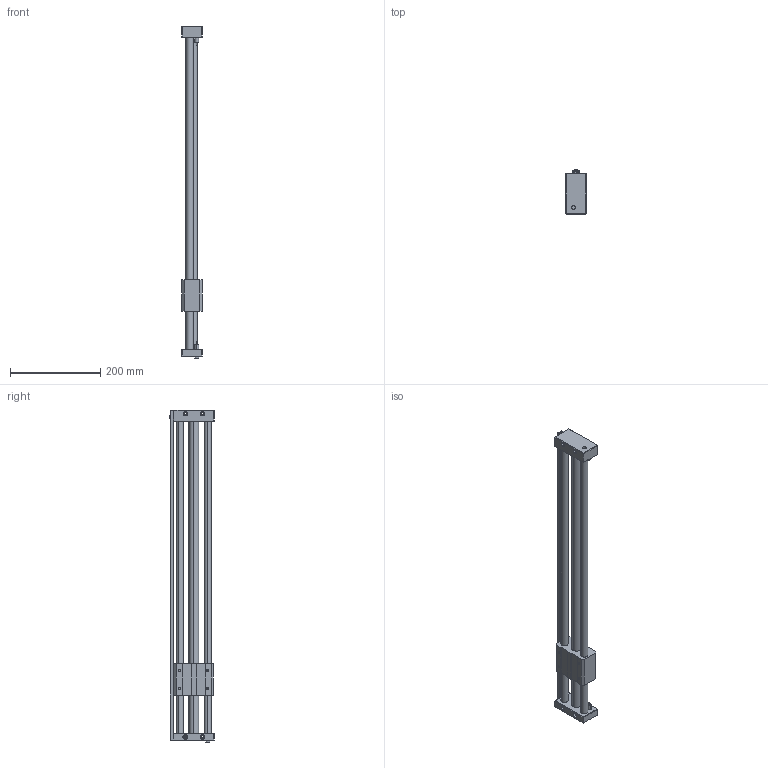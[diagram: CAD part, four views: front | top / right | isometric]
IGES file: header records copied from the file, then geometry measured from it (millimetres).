
Start section: SolidWorks IGES file using analytic representation for surfaces
Global section: file name: D:\Documents de SGA\Pieces 2D et 3D\GRU\iges\Assemblage8.IGS; native system: SolidWorks 2010; preprocessor: SolidWorks 2010; author: SGA; date: 111216.105200; units: millimetre
Bounding box: 45 x 97.98 x 735.23 mm (x, y, z)
Surface area: 240420.1 mm2 (no closed solid volume)
Topology: 0 solids, 0 shells, 213 faces, 3658 edges, 3658 vertices
Faces by surface type: bspline 111, revolution 102
